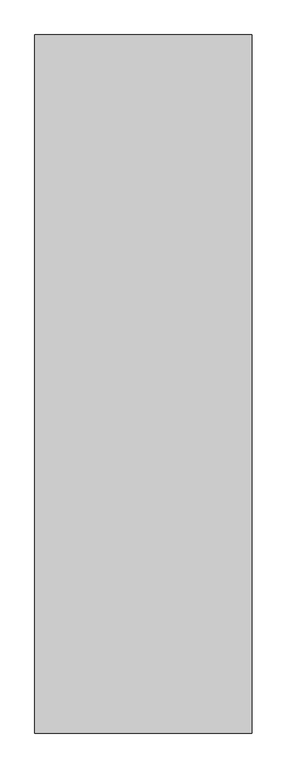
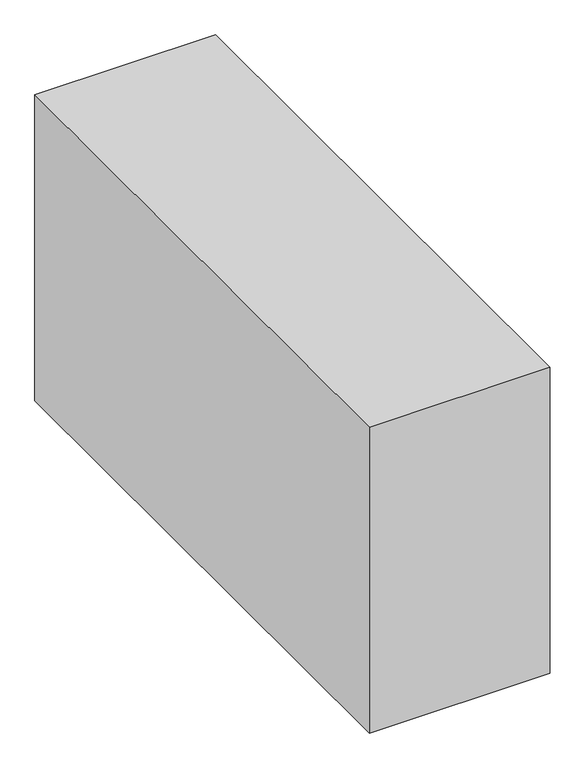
"""IFC4 building model written with IfcOpenShell, lengths in millimetres: proxy geometry."""

from ifc_helpers import new_model, si_unit, frame, origin, place, context, project, spatial, polyline, outline, extrude, source, transform, mapped, element, save


def generic_models_fd21c37c(model_context):
    return source(origin(), model_context, "Body", "SweptSolid", [
        extrude(outline(polyline([(0.0, -1474.0), (-950.0, -1474.0), (-950.0, 1574.0), (0.0, 1574.0), (0.0, -1474.0)])), frame((0.0, 0.0, 800.0), z_axis=(0.0, 0.0, 1.0), x_axis=(1.0, 0.0, 0.0)), (0.0, 0.0, 1.0), 1700.0),
    ])


if __name__ == "__main__":
    model = new_model("IFC4")
    model_context = context("Model", 3, world=origin())
    ifc_project = project(units=[si_unit("LENGTHUNIT", "METRE", prefix="MILLI")], contexts=[model_context])
    site = spatial("IfcSite", under=ifc_project)
    building = spatial("IfcBuilding", under=site)
    placement = place(None, origin())
    generic_models_shape = generic_models_fd21c37c(model_context)
    element("IfcBuildingElementProxy", 1, Name="Generic Models", at=placement, inside=building, context=model_context, shape_type="MappedRepresentation", body=[
        mapped(generic_models_shape, transform((0.0, 0.0, 0.0), x_axis=(1.0, 0.0, 0.0), y_axis=(0.0, 1.0, 0.0), z_axis=(0.0, 0.0, 1.0))),
    ])
    save(model, "model.ifc")
